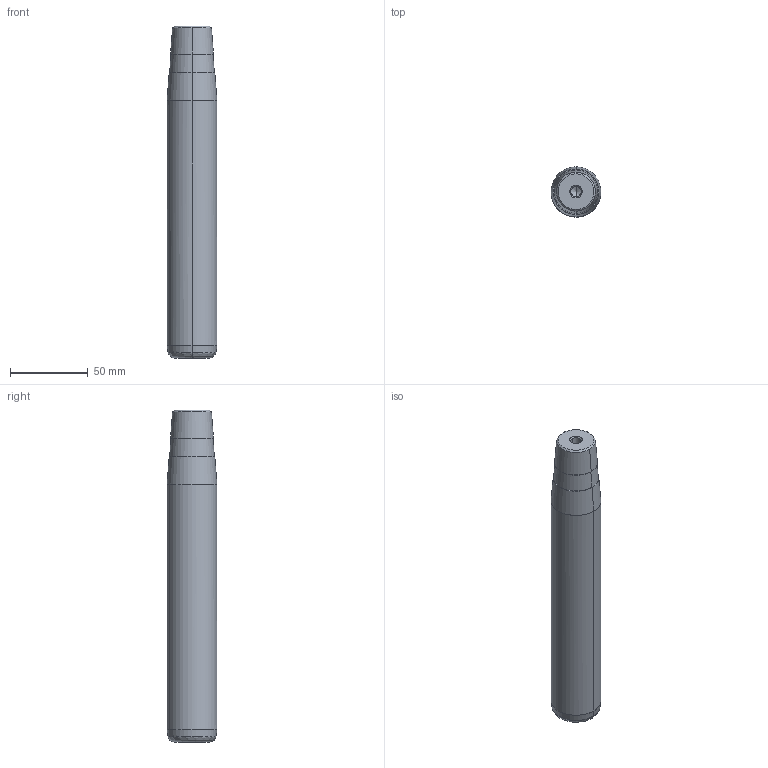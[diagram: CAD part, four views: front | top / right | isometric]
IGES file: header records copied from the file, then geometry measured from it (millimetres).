
Start section: START RECORD GO HERE.
Global section: file name: 722-32x180x213.igs; native system: DASSAULT SYSTEMES CATIA V5 R20 - www.3ds.com; preprocessor: CATIA Version 5 Release 20 ; author: Utente; organization: NB04-ASUS; date: 20210108.171048; units: millimetre
Bounding box: 32 x 32 x 213 mm (x, y, z)
Surface area: 22987.8 mm2 (no closed solid volume)
Topology: 0 solids, 0 shells, 32 faces, 192 edges, 188 vertices
Faces by surface type: revolution 30, plane 2
